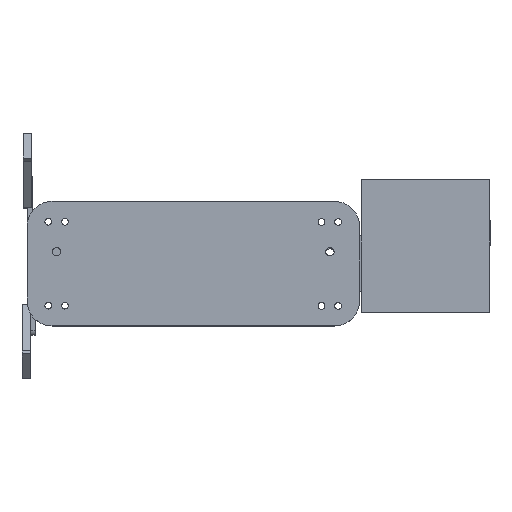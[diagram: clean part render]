
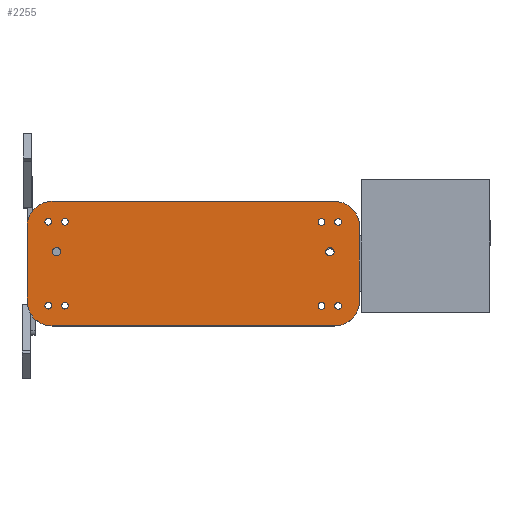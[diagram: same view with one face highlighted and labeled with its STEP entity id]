
A CAD part, top view. The second image highlights one B-rep face of the part: STEP entity #2255.
In plain terms, the highlighted planar face has unit normal (0, 0, 1).
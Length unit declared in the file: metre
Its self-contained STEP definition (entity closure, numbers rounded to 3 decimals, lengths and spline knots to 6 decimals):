
#99=CIRCLE('',#2473,0.015);
#101=CIRCLE('',#2477,0.015);
#103=CIRCLE('',#2480,0.015);
#104=CIRCLE('',#2483,0.00205);
#105=CIRCLE('',#2485,0.00205);
#106=CIRCLE('',#2487,0.00205);
#107=CIRCLE('',#2489,0.00205);
#109=CIRCLE('',#2492,0.00205);
#111=CIRCLE('',#2495,0.00205);
#113=CIRCLE('',#2498,0.00205);
#115=CIRCLE('',#2501,0.00205);
#116=CIRCLE('',#2503,0.015);
#118=CIRCLE('',#2507,0.00255);
#119=CIRCLE('',#2508,0.00255);
#489=ORIENTED_EDGE('',*,*,#1007,.T.);
#490=ORIENTED_EDGE('',*,*,#1008,.F.);
#491=ORIENTED_EDGE('',*,*,#1004,.F.);
#492=ORIENTED_EDGE('',*,*,#1002,.F.);
#493=ORIENTED_EDGE('',*,*,#1000,.F.);
#494=ORIENTED_EDGE('',*,*,#998,.F.);
#495=ORIENTED_EDGE('',*,*,#996,.F.);
#496=ORIENTED_EDGE('',*,*,#995,.F.);
#497=ORIENTED_EDGE('',*,*,#994,.F.);
#498=ORIENTED_EDGE('',*,*,#993,.F.);
#499=ORIENTED_EDGE('',*,*,#928,.T.);
#500=ORIENTED_EDGE('',*,*,#981,.T.);
#501=ORIENTED_EDGE('',*,*,#984,.F.);
#502=ORIENTED_EDGE('',*,*,#987,.T.);
#503=ORIENTED_EDGE('',*,*,#947,.F.);
#504=ORIENTED_EDGE('',*,*,#989,.T.);
#505=ORIENTED_EDGE('',*,*,#991,.T.);
#506=ORIENTED_EDGE('',*,*,#1005,.T.);
#928=EDGE_CURVE('',#1230,#1229,#1451,.T.);
#947=EDGE_CURVE('',#1243,#1244,#1466,.T.);
#981=EDGE_CURVE('',#1229,#1270,#99,.T.);
#984=EDGE_CURVE('',#1272,#1270,#1477,.T.);
#987=EDGE_CURVE('',#1272,#1244,#101,.T.);
#989=EDGE_CURVE('',#1243,#1274,#103,.T.);
#991=EDGE_CURVE('',#1274,#1275,#1481,.T.);
#993=EDGE_CURVE('',#1276,#1276,#104,.T.);
#994=EDGE_CURVE('',#1277,#1277,#105,.T.);
#995=EDGE_CURVE('',#1278,#1278,#106,.T.);
#996=EDGE_CURVE('',#1279,#1279,#107,.T.);
#998=EDGE_CURVE('',#1281,#1281,#109,.T.);
#1000=EDGE_CURVE('',#1283,#1283,#111,.T.);
#1002=EDGE_CURVE('',#1285,#1285,#113,.T.);
#1004=EDGE_CURVE('',#1287,#1287,#115,.T.);
#1005=EDGE_CURVE('',#1275,#1230,#116,.T.);
#1007=EDGE_CURVE('',#1289,#1289,#118,.T.);
#1008=EDGE_CURVE('',#1290,#1290,#119,.T.);
#1229=VERTEX_POINT('',#3476);
#1230=VERTEX_POINT('',#3478);
#1243=VERTEX_POINT('',#3513);
#1244=VERTEX_POINT('',#3515);
#1270=VERTEX_POINT('',#3592);
#1272=VERTEX_POINT('',#3598);
#1274=VERTEX_POINT('',#3607);
#1275=VERTEX_POINT('',#3611);
#1276=VERTEX_POINT('',#3615);
#1277=VERTEX_POINT('',#3618);
#1278=VERTEX_POINT('',#3621);
#1279=VERTEX_POINT('',#3624);
#1281=VERTEX_POINT('',#3629);
#1283=VERTEX_POINT('',#3634);
#1285=VERTEX_POINT('',#3639);
#1287=VERTEX_POINT('',#3644);
#1289=VERTEX_POINT('',#3652);
#1290=VERTEX_POINT('',#3654);
#1451=LINE('',#3477,#1627);
#1466=LINE('',#3514,#1642);
#1477=LINE('',#3597,#1653);
#1481=LINE('',#3610,#1657);
#1627=VECTOR('',#2752,1.);
#1642=VECTOR('',#2783,1.);
#1653=VECTOR('',#2882,1.);
#1657=VECTOR('',#2898,1.);
#1864=EDGE_LOOP('',(#489));
#1865=EDGE_LOOP('',(#490));
#1866=EDGE_LOOP('',(#491));
#1867=EDGE_LOOP('',(#492));
#1868=EDGE_LOOP('',(#493));
#1869=EDGE_LOOP('',(#494));
#1870=EDGE_LOOP('',(#495));
#1871=EDGE_LOOP('',(#496));
#1872=EDGE_LOOP('',(#497));
#1873=EDGE_LOOP('',(#498));
#1874=EDGE_LOOP('',(#499,#500,#501,#502,#503,#504,#505,#506));
#2056=FACE_BOUND('',#1864,.T.);
#2057=FACE_BOUND('',#1865,.T.);
#2058=FACE_BOUND('',#1866,.T.);
#2059=FACE_BOUND('',#1867,.T.);
#2060=FACE_BOUND('',#1868,.T.);
#2061=FACE_BOUND('',#1869,.T.);
#2062=FACE_BOUND('',#1870,.T.);
#2063=FACE_BOUND('',#1871,.T.);
#2064=FACE_BOUND('',#1872,.T.);
#2065=FACE_BOUND('',#1873,.T.);
#2066=FACE_BOUND('',#1874,.T.);
#2174=PLANE('',#2506);
#2255=ADVANCED_FACE('',(#2056,#2057,#2058,#2059,#2060,#2061,#2062,#2063,
#2064,#2065,#2066),#2174,.F.);
#2473=AXIS2_PLACEMENT_3D('',#3591,#2875,#2876);
#2477=AXIS2_PLACEMENT_3D('',#3603,#2887,#2888);
#2480=AXIS2_PLACEMENT_3D('',#3606,#2893,#2894);
#2483=AXIS2_PLACEMENT_3D('',#3614,#2902,#2903);
#2485=AXIS2_PLACEMENT_3D('',#3617,#2906,#2907);
#2487=AXIS2_PLACEMENT_3D('',#3620,#2910,#2911);
#2489=AXIS2_PLACEMENT_3D('',#3623,#2914,#2915);
#2492=AXIS2_PLACEMENT_3D('',#3628,#2920,#2921);
#2495=AXIS2_PLACEMENT_3D('',#3633,#2926,#2927);
#2498=AXIS2_PLACEMENT_3D('',#3638,#2932,#2933);
#2501=AXIS2_PLACEMENT_3D('',#3643,#2938,#2939);
#2503=AXIS2_PLACEMENT_3D('',#3646,#2942,#2943);
#2506=AXIS2_PLACEMENT_3D('',#3650,#2948,#2949);
#2507=AXIS2_PLACEMENT_3D('',#3651,#2950,#2951);
#2508=AXIS2_PLACEMENT_3D('',#3653,#2952,#2953);
#2752=DIRECTION('',(0.,1.,0.));
#2783=DIRECTION('',(0.,1.,0.));
#2875=DIRECTION('',(0.,0.,1.));
#2876=DIRECTION('',(1.,0.,0.));
#2882=DIRECTION('',(1.,0.,0.));
#2887=DIRECTION('',(0.,0.,1.));
#2888=DIRECTION('',(1.,0.,0.));
#2893=DIRECTION('',(0.,0.,1.));
#2894=DIRECTION('',(1.,0.,0.));
#2898=DIRECTION('',(1.,0.,0.));
#2902=DIRECTION('',(0.,0.,1.));
#2903=DIRECTION('',(1.,0.,0.));
#2906=DIRECTION('',(0.,0.,1.));
#2907=DIRECTION('',(1.,0.,0.));
#2910=DIRECTION('',(0.,0.,1.));
#2911=DIRECTION('',(1.,0.,0.));
#2914=DIRECTION('',(0.,0.,1.));
#2915=DIRECTION('',(1.,0.,0.));
#2920=DIRECTION('',(0.,0.,1.));
#2921=DIRECTION('',(1.,0.,0.));
#2926=DIRECTION('',(0.,0.,1.));
#2927=DIRECTION('',(1.,0.,0.));
#2932=DIRECTION('',(0.,0.,1.));
#2933=DIRECTION('',(1.,0.,0.));
#2938=DIRECTION('',(0.,0.,1.));
#2939=DIRECTION('',(1.,0.,0.));
#2942=DIRECTION('',(0.,0.,1.));
#2943=DIRECTION('',(1.,0.,0.));
#2948=DIRECTION('',(0.,0.,-1.));
#2949=DIRECTION('',(1.,0.,0.));
#2950=DIRECTION('',(0.,0.,-1.));
#2951=DIRECTION('',(1.,0.,0.));
#2952=DIRECTION('',(0.,0.,1.));
#2953=DIRECTION('',(1.,0.,0.));
#3476=CARTESIAN_POINT('',(0.075,0.185,0.04045));
#3477=CARTESIAN_POINT('',(0.075,0.1,0.04045));
#3478=CARTESIAN_POINT('',(0.075,0.015,0.04045));
#3513=CARTESIAN_POINT('',(0.,0.015,0.04045));
#3514=CARTESIAN_POINT('',(0.,0.1,0.04045));
#3515=CARTESIAN_POINT('',(0.,0.185,0.04045));
#3591=CARTESIAN_POINT('',(0.06,0.185,0.04045));
#3592=CARTESIAN_POINT('',(0.06,0.2,0.04045));
#3597=CARTESIAN_POINT('',(0.0375,0.2,0.04045));
#3598=CARTESIAN_POINT('',(0.015,0.2,0.04045));
#3603=CARTESIAN_POINT('',(0.015,0.185,0.04045));
#3606=CARTESIAN_POINT('',(0.015,0.015,0.04045));
#3607=CARTESIAN_POINT('',(0.015,0.,0.04045));
#3610=CARTESIAN_POINT('',(0.0375,0.,0.04045));
#3611=CARTESIAN_POINT('',(0.06,0.,0.04045));
#3614=CARTESIAN_POINT('',(0.012276,0.012775,0.04045));
#3615=CARTESIAN_POINT('',(0.014326,0.012775,0.04045));
#3617=CARTESIAN_POINT('',(0.062776,0.012775,0.04045));
#3618=CARTESIAN_POINT('',(0.064826,0.012775,0.04045));
#3620=CARTESIAN_POINT('',(0.012276,0.022775,0.04045));
#3621=CARTESIAN_POINT('',(0.014326,0.022775,0.04045));
#3623=CARTESIAN_POINT('',(0.062776,0.022775,0.04045));
#3624=CARTESIAN_POINT('',(0.064826,0.022775,0.04045));
#3628=CARTESIAN_POINT('',(0.012424,0.187225,0.04045));
#3629=CARTESIAN_POINT('',(0.014474,0.187225,0.04045));
#3633=CARTESIAN_POINT('',(0.012424,0.177225,0.04045));
#3634=CARTESIAN_POINT('',(0.014474,0.177225,0.04045));
#3638=CARTESIAN_POINT('',(0.062924,0.187225,0.04045));
#3639=CARTESIAN_POINT('',(0.064974,0.187225,0.04045));
#3643=CARTESIAN_POINT('',(0.062924,0.177225,0.04045));
#3644=CARTESIAN_POINT('',(0.064974,0.177225,0.04045));
#3646=CARTESIAN_POINT('',(0.06,0.015,0.04045));
#3650=CARTESIAN_POINT('',(0.0375,0.1,0.04045));
#3651=CARTESIAN_POINT('',(0.030334,0.017775,0.04045));
#3652=CARTESIAN_POINT('',(0.032884,0.017775,0.04045));
#3653=CARTESIAN_POINT('',(0.030334,0.182225,0.04045));
#3654=CARTESIAN_POINT('',(0.032884,0.182225,0.04045));
